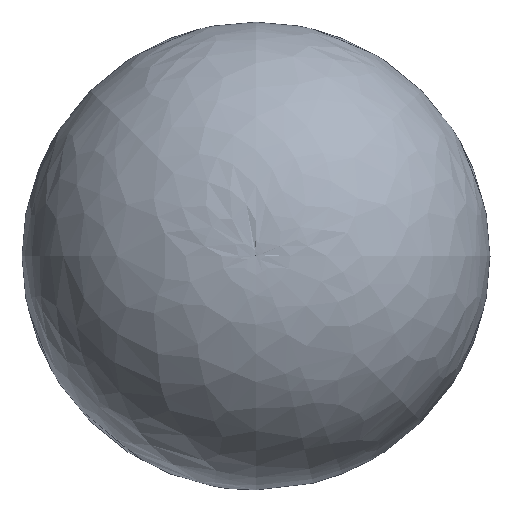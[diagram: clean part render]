
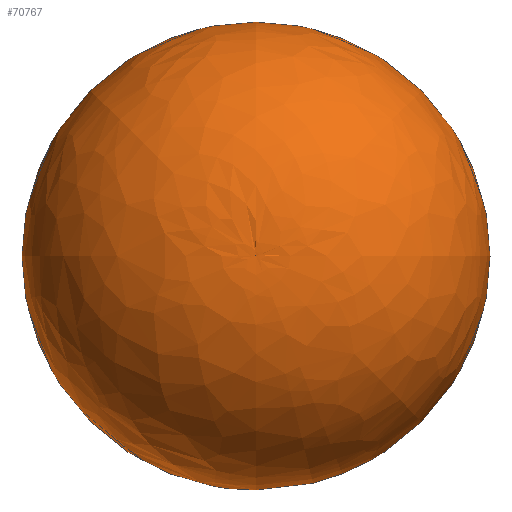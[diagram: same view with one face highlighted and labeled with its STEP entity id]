
A CAD part, top view. The second image highlights one B-rep face of the part: STEP entity #70767.
In plain terms, the highlighted free-form (B-spline) face has degree [2, 2] with [5, 9] control points.
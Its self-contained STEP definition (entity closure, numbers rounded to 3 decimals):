
#1234=(
BOUNDED_SURFACE()
B_SPLINE_SURFACE(2,2,((#249657,#249658,#249659,#249660,#249661,#249662,
#249663,#249664,#249665),(#249666,#249667,#249668,#249669,#249670,#249671,
#249672,#249673,#249674),(#249675,#249676,#249677,#249678,#249679,#249680,
#249681,#249682,#249683),(#249684,#249685,#249686,#249687,#249688,#249689,
#249690,#249691,#249692),(#249693,#249694,#249695,#249696,#249697,#249698,
#249699,#249700,#249701)),.UNSPECIFIED.,.F.,.T.,.F.)
B_SPLINE_SURFACE_WITH_KNOTS((3,2,3),(3,2,2,2,3),(-1.646,-0.299,
1.047),(-3.142,-1.571,0.,1.571,
3.142),.UNSPECIFIED.)
GEOMETRIC_REPRESENTATION_ITEM()
RATIONAL_B_SPLINE_SURFACE(((1.,0.707,1.,0.707,1.,
0.707,1.,0.707,1.),(0.782,0.553,
0.782,0.553,0.782,0.553,0.782,
0.553,0.782),(1.,0.707,1.,0.707,
1.,0.707,1.,0.707,1.),(0.782,0.553,
0.782,0.553,0.782,0.553,0.782,
0.553,0.782),(1.,0.707,1.,0.707,
1.,0.707,1.,0.707,1.)))
REPRESENTATION_ITEM('')
SURFACE()
);
#1310=(
BOUNDED_CURVE()
B_SPLINE_CURVE(2,(#249705,#249706,#249707,#249708,#249709),
 .UNSPECIFIED.,.F.,.F.)
B_SPLINE_CURVE_WITH_KNOTS((3,2,3),(-1.047,0.299,1.646),
 .UNSPECIFIED.)
CURVE()
GEOMETRIC_REPRESENTATION_ITEM()
RATIONAL_B_SPLINE_CURVE((1.,0.782,1.,0.782,1.))
REPRESENTATION_ITEM('')
);
#20135=FACE_OUTER_BOUND('',#25329,.T.);
#25329=EDGE_LOOP('',(#66027,#66028,#66029));
#28514=CIRCLE('',#77977,1337.75);
#35316=VERTEX_POINT('',#249702);
#35317=VERTEX_POINT('',#249704);
#45554=EDGE_CURVE('',#35316,#35316,#28514,.T.);
#45555=EDGE_CURVE('',#35316,#35317,#1310,.T.);
#66027=ORIENTED_EDGE('',*,*,#45554,.F.);
#66028=ORIENTED_EDGE('',*,*,#45555,.T.);
#66029=ORIENTED_EDGE('',*,*,#45555,.F.);
#70767=ADVANCED_FACE('',(#20135),#1234,.F.);
#77977=AXIS2_PLACEMENT_3D('',#249703,#95827,#95828);
#95827=DIRECTION('center_axis',(0.,0.,-1.));
#95828=DIRECTION('ref_axis',(0.,1.,0.));
#249657=CARTESIAN_POINT('Ctrl Pts',(0.,0.,2813.906));
#249658=CARTESIAN_POINT('Ctrl Pts',(0.,0.,
2813.906));
#249659=CARTESIAN_POINT('Ctrl Pts',(0.,0.,2813.906));
#249660=CARTESIAN_POINT('Ctrl Pts',(0.,0.,
2813.906));
#249661=CARTESIAN_POINT('Ctrl Pts',(0.,0.,2813.906));
#249662=CARTESIAN_POINT('Ctrl Pts',(0.,0.,
2813.906));
#249663=CARTESIAN_POINT('Ctrl Pts',(0.,0.,2813.906));
#249664=CARTESIAN_POINT('Ctrl Pts',(0.,0.,
2813.906));
#249665=CARTESIAN_POINT('Ctrl Pts',(0.,0.,2813.906));
#249666=CARTESIAN_POINT('Ctrl Pts',(0.,-1849.763,2953.501));
#249667=CARTESIAN_POINT('Ctrl Pts',(-1849.763,-1849.763,
2953.501));
#249668=CARTESIAN_POINT('Ctrl Pts',(-1849.763,0.,2953.501));
#249669=CARTESIAN_POINT('Ctrl Pts',(-1849.763,1849.763,
2953.501));
#249670=CARTESIAN_POINT('Ctrl Pts',(0.,1849.763,2953.501));
#249671=CARTESIAN_POINT('Ctrl Pts',(1849.763,1849.763,2953.501));
#249672=CARTESIAN_POINT('Ctrl Pts',(1849.763,0.,2953.501));
#249673=CARTESIAN_POINT('Ctrl Pts',(1849.763,-1849.763,
2953.501));
#249674=CARTESIAN_POINT('Ctrl Pts',(0.,-1849.763,2953.501));
#249675=CARTESIAN_POINT('Ctrl Pts',(0.,-2397.005,1181.035));
#249676=CARTESIAN_POINT('Ctrl Pts',(-2397.005,-2397.005,
1181.035));
#249677=CARTESIAN_POINT('Ctrl Pts',(-2397.005,0.,1181.035));
#249678=CARTESIAN_POINT('Ctrl Pts',(-2397.005,2397.005,
1181.035));
#249679=CARTESIAN_POINT('Ctrl Pts',(0.,2397.005,1181.035));
#249680=CARTESIAN_POINT('Ctrl Pts',(2397.005,2397.005,1181.035));
#249681=CARTESIAN_POINT('Ctrl Pts',(2397.005,0.,1181.035));
#249682=CARTESIAN_POINT('Ctrl Pts',(2397.005,-2397.005,
1181.035));
#249683=CARTESIAN_POINT('Ctrl Pts',(0.,-2397.005,1181.035));
#249684=CARTESIAN_POINT('Ctrl Pts',(0.,-2944.247,-591.431));
#249685=CARTESIAN_POINT('Ctrl Pts',(-2944.247,-2944.247,
-591.431));
#249686=CARTESIAN_POINT('Ctrl Pts',(-2944.247,0.,-591.431));
#249687=CARTESIAN_POINT('Ctrl Pts',(-2944.247,2944.247,
-591.431));
#249688=CARTESIAN_POINT('Ctrl Pts',(0.,2944.247,-591.431));
#249689=CARTESIAN_POINT('Ctrl Pts',(2944.247,2944.247,-591.431));
#249690=CARTESIAN_POINT('Ctrl Pts',(2944.247,0.,-591.431));
#249691=CARTESIAN_POINT('Ctrl Pts',(2944.247,-2944.247,
-591.431));
#249692=CARTESIAN_POINT('Ctrl Pts',(0.,-2944.247,-591.431));
#249693=CARTESIAN_POINT('Ctrl Pts',(0.,-1337.75,-1518.942));
#249694=CARTESIAN_POINT('Ctrl Pts',(-1337.75,-1337.75,-1518.942));
#249695=CARTESIAN_POINT('Ctrl Pts',(-1337.75,0.,-1518.942));
#249696=CARTESIAN_POINT('Ctrl Pts',(-1337.75,1337.75,-1518.942));
#249697=CARTESIAN_POINT('Ctrl Pts',(0.,1337.75,-1518.942));
#249698=CARTESIAN_POINT('Ctrl Pts',(1337.75,1337.75,-1518.942));
#249699=CARTESIAN_POINT('Ctrl Pts',(1337.75,0.,-1518.942));
#249700=CARTESIAN_POINT('Ctrl Pts',(1337.75,-1337.75,-1518.942));
#249701=CARTESIAN_POINT('Ctrl Pts',(0.,-1337.75,-1518.942));
#249702=CARTESIAN_POINT('',(0.,-1337.75,-1518.942));
#249703=CARTESIAN_POINT('Origin',(0.,0.,-1518.942));
#249704=CARTESIAN_POINT('',(0.,0.,2813.906));
#249705=CARTESIAN_POINT('Ctrl Pts',(0.,-1337.75,-1518.942));
#249706=CARTESIAN_POINT('Ctrl Pts',(0.,-2944.247,-591.431));
#249707=CARTESIAN_POINT('Ctrl Pts',(0.,-2397.005,1181.035));
#249708=CARTESIAN_POINT('Ctrl Pts',(0.,-1849.763,2953.501));
#249709=CARTESIAN_POINT('Ctrl Pts',(0.,0.,2813.906));
